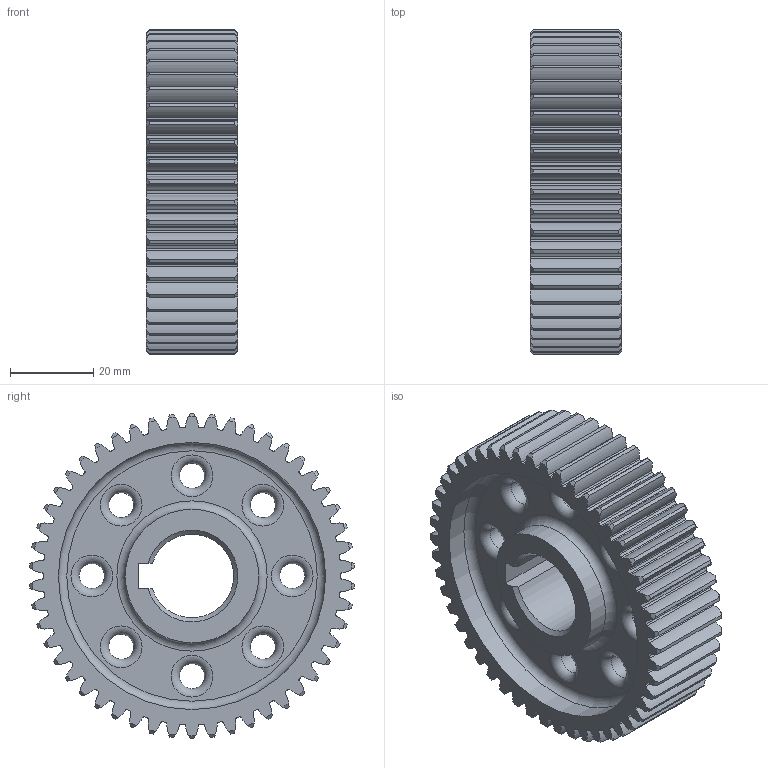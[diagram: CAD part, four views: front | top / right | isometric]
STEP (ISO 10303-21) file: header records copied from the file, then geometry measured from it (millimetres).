
FILE_DESCRIPTION(/* description */ (''),/* implementation_level */ '2;1');
FILE_NAME(/* name */ '',/* time_stamp */ '2025-11-19T16:40:34+09:00',/* author */ ('jhkim'),/* organization */ (''),/* preprocessor_version */ 'ST-DEVELOPER v20.1',/* originating_system */ 'Autodesk Inventor 2026',/* authorisation */ '');
FILE_SCHEMA (('AUTOMOTIVE_DESIGN { 1 0 10303 214 3 1 1 }'));
Length unit declared in the file: millimetre
Products named in the file (1): 종동 기어
Bounding box: 22 x 77.9 x 78 mm (x, y, z)
Volume: 53612.6 mm3; surface area: 23865.3 mm2
Topology: 1 solids, 1 shells, 444 faces, 1312 edges, 874 vertices
Faces by surface type: cylinder 313, cone 102, torus 20, plane 9
Full cylindrical faces by diameter (mm): 6 x8, 32 x2, 64 x2
Entity records: 15561 total; most frequent: CARTESIAN_POINT 3239, DIRECTION 2784, ORIENTED_EDGE 2624, EDGE_CURVE 1312, AXIS2_PLACEMENT_3D 1231, VERTEX_POINT 874, CIRCLE 786, EDGE_LOOP 466
